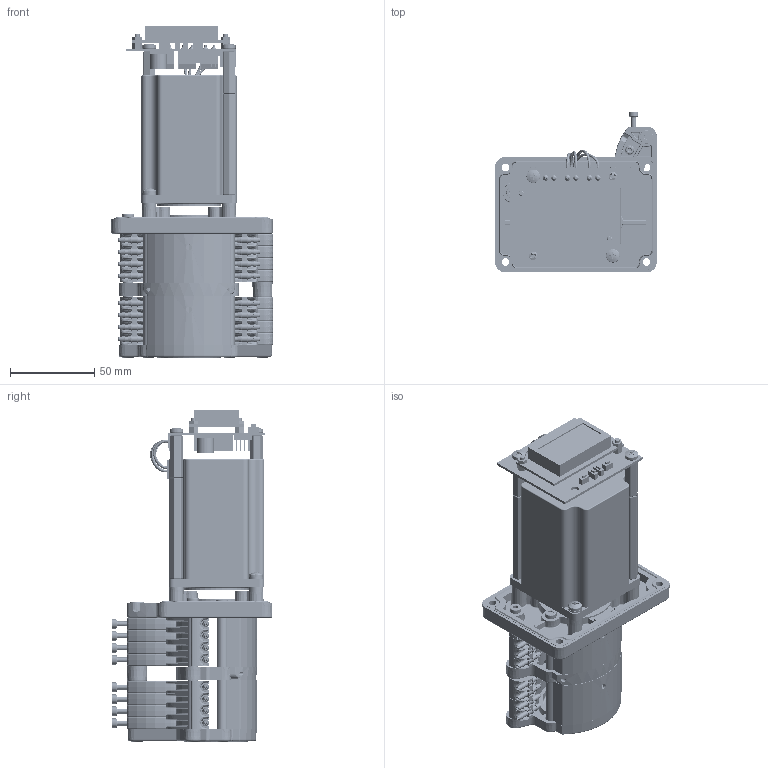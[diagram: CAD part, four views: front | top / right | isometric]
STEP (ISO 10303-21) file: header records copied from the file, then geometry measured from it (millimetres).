
FILE_DESCRIPTION (( 'STEP AP214' ), '1' );
FILE_NAME ('Assy_6K6002_IDs_R00.STEP', '2026-09-24T12:36:35', ( '' ), ( '' ), 'SwSTEP 2.0', 'SolidWorks 2021', '' );
FILE_SCHEMA (( 'AUTOMOTIVE_DESIGN' ));
Length unit declared in the file: millimetre
Products named in the file (1): Assy_6K6002_IDs_R00
Bounding box: 95.89 x 95.23 x 196.6 mm (x, y, z)
Volume: 382015.5 mm3; surface area: 155038.3 mm2
Topology: 33 solids, 33 shells, 5390 faces, 12991 edges, 7636 vertices
Faces by surface type: plane 1925, cylinder 1345, bspline 936, cone 569, torus 394, sphere 221
Full cylindrical faces by diameter (mm): 1.3 x6, 1.35 x4, 1.6 x4, 1.8 x16, 2.4 x2, 2.5 x1, 2.8 x10, 3 x24, 3.2 x10, 3.4 x2, 4 x2, 4.022 x2, 4.5 x4, 5 x14, 5.5 x8, 6.05 x6, 6.1 x10, 7 x7, 7.5 x4, 7.96 x1, 8 x4, 8.55 x4, 10 x2, 10.2 x1, 10.5 x1, 24.168 x1, 38.1 x1
Entity records: 187908 total; most frequent: CARTESIAN_POINT 75713, ORIENTED_EDGE 24590, DIRECTION 21057, EDGE_CURVE 12295, AXIS2_PLACEMENT_3D 7932, VERTEX_POINT 7502, EDGE_LOOP 6017, FACE_OUTER_BOUND 5598
